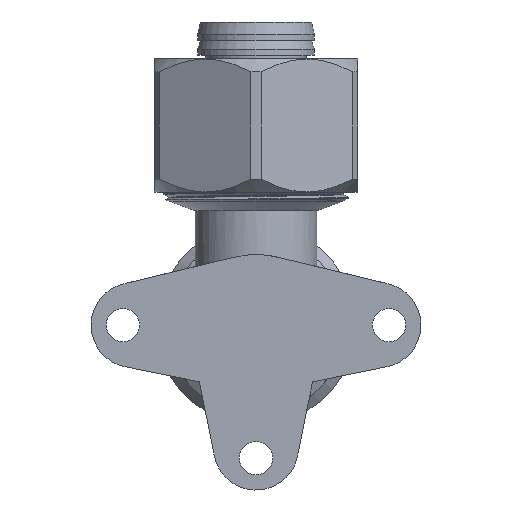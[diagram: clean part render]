
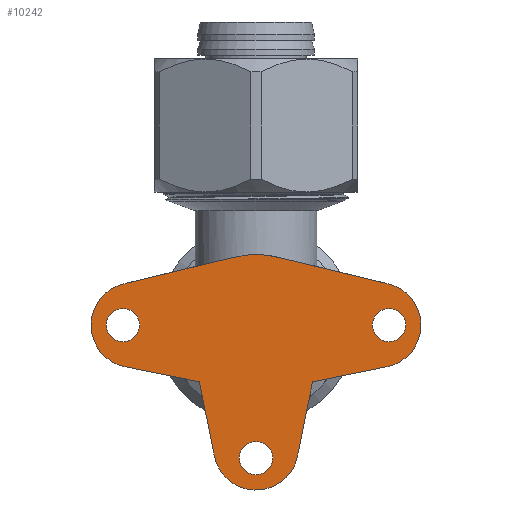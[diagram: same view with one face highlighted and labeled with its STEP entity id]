
A CAD part, front view. The second image highlights one B-rep face of the part: STEP entity #10242.
In plain terms, the highlighted planar face has unit normal (0, -1, 0).
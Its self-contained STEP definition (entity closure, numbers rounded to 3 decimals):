
#393=FACE_BOUND('',#1918,.T.);
#394=FACE_BOUND('',#1919,.T.);
#395=FACE_BOUND('',#1920,.T.);
#460=PLANE('',#10964);
#1317=FACE_OUTER_BOUND('',#1917,.T.);
#1917=EDGE_LOOP('',(#6982,#6983,#6984,#6985,#6986,#6987,#6988,#6989,#6990,
#6991));
#1918=EDGE_LOOP('',(#6992));
#1919=EDGE_LOOP('',(#6993));
#1920=EDGE_LOOP('',(#6994));
#2565=LINE('',#13664,#3222);
#2568=LINE('',#13672,#3225);
#2573=LINE('',#13701,#3230);
#2575=LINE('',#13705,#3232);
#2578=LINE('',#13713,#3235);
#2580=LINE('',#13716,#3237);
#3222=VECTOR('',#11650,10.);
#3225=VECTOR('',#11659,10.);
#3230=VECTOR('',#11694,10.);
#3232=VECTOR('',#11698,10.);
#3235=VECTOR('',#11707,10.);
#3237=VECTOR('',#11711,10.);
#3879=CIRCLE('',#10939,5.75);
#3880=CIRCLE('',#10942,13.);
#3886=CIRCLE('',#10951,2.25);
#3887=CIRCLE('',#10953,2.25);
#3888=CIRCLE('',#10955,2.25);
#3889=CIRCLE('',#10957,5.75);
#3890=CIRCLE('',#10961,5.75);
#4180=VERTEX_POINT('',#13656);
#4181=VERTEX_POINT('',#13658);
#4182=VERTEX_POINT('',#13662);
#4183=VERTEX_POINT('',#13666);
#4184=VERTEX_POINT('',#13670);
#4189=VERTEX_POINT('',#13684);
#4190=VERTEX_POINT('',#13688);
#4191=VERTEX_POINT('',#13692);
#4192=VERTEX_POINT('',#13696);
#4193=VERTEX_POINT('',#13700);
#4194=VERTEX_POINT('',#13704);
#4195=VERTEX_POINT('',#13708);
#4196=VERTEX_POINT('',#13712);
#5279=EDGE_CURVE('',#4181,#4180,#3879,.T.);
#5282=EDGE_CURVE('',#4180,#4182,#2565,.T.);
#5284=EDGE_CURVE('',#4182,#4183,#3880,.T.);
#5286=EDGE_CURVE('',#4183,#4184,#2568,.T.);
#5292=EDGE_CURVE('',#4189,#4189,#3886,.T.);
#5294=EDGE_CURVE('',#4190,#4190,#3887,.T.);
#5296=EDGE_CURVE('',#4191,#4191,#3888,.T.);
#5299=EDGE_CURVE('',#4184,#4192,#3889,.T.);
#5300=EDGE_CURVE('',#4193,#4181,#2573,.T.);
#5302=EDGE_CURVE('',#4194,#4193,#2575,.T.);
#5304=EDGE_CURVE('',#4195,#4194,#3890,.T.);
#5306=EDGE_CURVE('',#4196,#4195,#2578,.T.);
#5308=EDGE_CURVE('',#4192,#4196,#2580,.T.);
#6982=ORIENTED_EDGE('',*,*,#5308,.T.);
#6983=ORIENTED_EDGE('',*,*,#5306,.T.);
#6984=ORIENTED_EDGE('',*,*,#5304,.T.);
#6985=ORIENTED_EDGE('',*,*,#5302,.T.);
#6986=ORIENTED_EDGE('',*,*,#5300,.T.);
#6987=ORIENTED_EDGE('',*,*,#5279,.T.);
#6988=ORIENTED_EDGE('',*,*,#5282,.T.);
#6989=ORIENTED_EDGE('',*,*,#5284,.T.);
#6990=ORIENTED_EDGE('',*,*,#5286,.T.);
#6991=ORIENTED_EDGE('',*,*,#5299,.T.);
#6992=ORIENTED_EDGE('',*,*,#5296,.T.);
#6993=ORIENTED_EDGE('',*,*,#5294,.T.);
#6994=ORIENTED_EDGE('',*,*,#5292,.T.);
#10242=ADVANCED_FACE('',(#1317,#393,#394,#395),#460,.T.);
#10939=AXIS2_PLACEMENT_3D('',#13659,#11644,#11645);
#10942=AXIS2_PLACEMENT_3D('',#13668,#11654,#11655);
#10951=AXIS2_PLACEMENT_3D('',#13685,#11674,#11675);
#10953=AXIS2_PLACEMENT_3D('',#13689,#11679,#11680);
#10955=AXIS2_PLACEMENT_3D('',#13693,#11684,#11685);
#10957=AXIS2_PLACEMENT_3D('',#13698,#11690,#11691);
#10961=AXIS2_PLACEMENT_3D('',#13709,#11702,#11703);
#10964=AXIS2_PLACEMENT_3D('',#13717,#11712,#11713);
#11644=DIRECTION('center_axis',(0.,-1.,0.));
#11645=DIRECTION('ref_axis',(0.199,0.,-0.98));
#11650=DIRECTION('',(-0.972,0.,0.234));
#11654=DIRECTION('center_axis',(0.,-1.,0.));
#11655=DIRECTION('ref_axis',(0.234,0.,0.972));
#11659=DIRECTION('',(-0.972,0.,-0.234));
#11674=DIRECTION('center_axis',(0.,1.,0.));
#11675=DIRECTION('ref_axis',(-1.,0.,0.));
#11679=DIRECTION('center_axis',(0.,1.,0.));
#11680=DIRECTION('ref_axis',(-1.,0.,0.));
#11684=DIRECTION('center_axis',(0.,1.,0.));
#11685=DIRECTION('ref_axis',(-1.,0.,0.));
#11690=DIRECTION('center_axis',(0.,-1.,0.));
#11691=DIRECTION('ref_axis',(-0.199,0.,0.98));
#11694=DIRECTION('',(0.98,0.,0.199));
#11698=DIRECTION('',(0.198,0.,0.98));
#11702=DIRECTION('center_axis',(0.,-1.,0.));
#11703=DIRECTION('ref_axis',(-0.98,0.,-0.199));
#11707=DIRECTION('',(0.199,0.,-0.98));
#11711=DIRECTION('',(0.98,0.,-0.199));
#11712=DIRECTION('center_axis',(0.,-1.,0.));
#11713=DIRECTION('ref_axis',(0.,0.,-1.));
#13656=CARTESIAN_POINT('',(17.706,-5.866,5.635));
#13658=CARTESIAN_POINT('',(17.706,-5.866,-5.635));
#13659=CARTESIAN_POINT('Origin',(16.56,-5.866,0.));
#13662=CARTESIAN_POINT('',(3.043,-5.866,9.165));
#13664=CARTESIAN_POINT('',(17.706,-5.866,5.635));
#13666=CARTESIAN_POINT('',(-3.043,-5.866,9.165));
#13668=CARTESIAN_POINT('Origin',(0.,-5.866,
-3.474));
#13670=CARTESIAN_POINT('',(-17.706,-5.866,5.635));
#13672=CARTESIAN_POINT('',(-3.043,-5.866,9.165));
#13684=CARTESIAN_POINT('',(2.25,-5.866,-18.));
#13685=CARTESIAN_POINT('Origin',(0.,-5.866,-18.));
#13688=CARTESIAN_POINT('',(20.25,-5.866,0.));
#13689=CARTESIAN_POINT('Origin',(18.,-5.866,0.));
#13692=CARTESIAN_POINT('',(-15.75,-5.866,0.));
#13693=CARTESIAN_POINT('Origin',(-18.,-5.866,0.));
#13696=CARTESIAN_POINT('',(-17.706,-5.866,-5.635));
#13698=CARTESIAN_POINT('Origin',(-16.56,-5.866,0.));
#13700=CARTESIAN_POINT('',(7.638,-5.866,-7.683));
#13701=CARTESIAN_POINT('',(7.588,-5.866,-7.693));
#13704=CARTESIAN_POINT('',(5.707,-5.866,-17.26));
#13705=CARTESIAN_POINT('',(5.707,-5.866,-17.26));
#13708=CARTESIAN_POINT('',(-5.635,-5.866,-17.706));
#13709=CARTESIAN_POINT('Origin',(0.,-5.866,-16.56));
#13712=CARTESIAN_POINT('',(-7.675,-5.866,-7.675));
#13713=CARTESIAN_POINT('',(-7.693,-5.866,-7.588));
#13716=CARTESIAN_POINT('',(-17.706,-5.866,-5.635));
#13717=CARTESIAN_POINT('Origin',(0.,-5.866,
-6.392));
